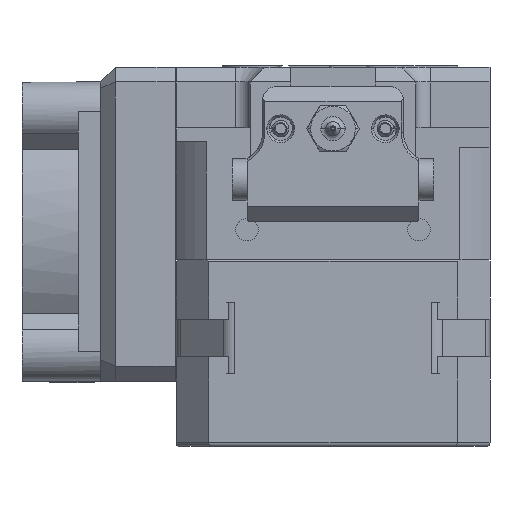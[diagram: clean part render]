
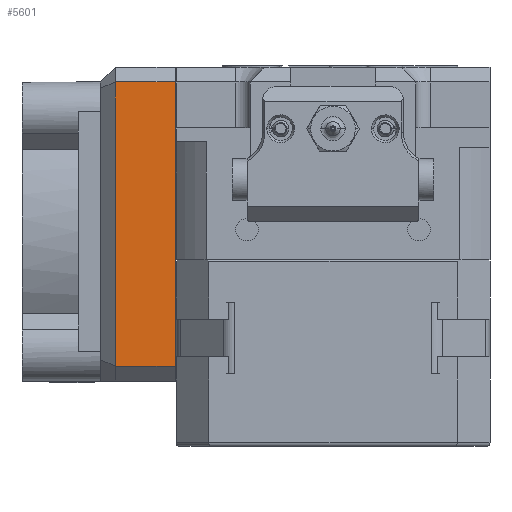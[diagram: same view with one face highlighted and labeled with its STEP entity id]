
A CAD part, front view. The second image highlights one B-rep face of the part: STEP entity #5601.
In plain terms, the highlighted planar face has unit normal (0, -1, 0).
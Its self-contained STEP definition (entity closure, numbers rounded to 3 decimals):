
#2556 = AXIS2_PLACEMENT_3D ( 'NONE', #5505, #10388, #8022 ) ;
#3613 = VECTOR ( 'NONE', #28779, 1000. ) ;
#4657 = LINE ( 'NONE', #23892, #30677 ) ;
#5505 = CARTESIAN_POINT ( 'NONE',  ( -31.1, -21., 50.75 ) ) ;
#5601 = ADVANCED_FACE ( 'NONE', ( #25199 ), #30068, .F. ) ;
#5940 = EDGE_CURVE ( 'NONE', #6543, #11824, #4657, .T. ) ;
#6543 = VERTEX_POINT ( 'NONE', #26120 ) ;
#7234 = CARTESIAN_POINT ( 'NONE',  ( -31.1, -21., 10.75 ) ) ;
#8022 = DIRECTION ( 'NONE',  ( 1., 0., 0. ) ) ;
#8726 = VECTOR ( 'NONE', #9279, 1000. ) ;
#9279 = DIRECTION ( 'NONE',  ( 1., 0., 0. ) ) ;
#10388 = DIRECTION ( 'NONE',  ( 0., 1., 0. ) ) ;
#11824 = VERTEX_POINT ( 'NONE', #22499 ) ;
#12008 = ORIENTED_EDGE ( 'NONE', *, *, #24207, .T. ) ;
#12329 = CARTESIAN_POINT ( 'NONE',  ( -21.1, -21., 10.75 ) ) ;
#13859 = LINE ( 'NONE', #7234, #8726 ) ;
#13977 = VERTEX_POINT ( 'NONE', #12329 ) ;
#15137 = EDGE_LOOP ( 'NONE', ( #24223, #12008, #25397, #18889 ) ) ;
#16654 = VECTOR ( 'NONE', #19249, 1000. ) ;
#18534 = DIRECTION ( 'NONE',  ( -1., 0., 0. ) ) ;
#18872 = CARTESIAN_POINT ( 'NONE',  ( -21.1, -21., 50.75 ) ) ;
#18889 = ORIENTED_EDGE ( 'NONE', *, *, #24824, .T. ) ;
#18972 = CARTESIAN_POINT ( 'NONE',  ( -29.1, -21., 10.75 ) ) ;
#19134 = VERTEX_POINT ( 'NONE', #18972 ) ;
#19249 = DIRECTION ( 'NONE',  ( 0., 0., -1. ) ) ;
#19334 = LINE ( 'NONE', #18872, #3613 ) ;
#21609 = LINE ( 'NONE', #29014, #16654 ) ;
#22499 = CARTESIAN_POINT ( 'NONE',  ( -29.1, -21., 48.75 ) ) ;
#23892 = CARTESIAN_POINT ( 'NONE',  ( -31.1, -21., 48.75 ) ) ;
#24207 = EDGE_CURVE ( 'NONE', #11824, #19134, #21609, .T. ) ;
#24223 = ORIENTED_EDGE ( 'NONE', *, *, #5940, .T. ) ;
#24824 = EDGE_CURVE ( 'NONE', #13977, #6543, #19334, .T. ) ;
#25199 = FACE_OUTER_BOUND ( 'NONE', #15137, .T. ) ;
#25397 = ORIENTED_EDGE ( 'NONE', *, *, #27174, .T. ) ;
#26120 = CARTESIAN_POINT ( 'NONE',  ( -21.1, -21., 48.75 ) ) ;
#27174 = EDGE_CURVE ( 'NONE', #19134, #13977, #13859, .T. ) ;
#28779 = DIRECTION ( 'NONE',  ( 0., 0., 1. ) ) ;
#29014 = CARTESIAN_POINT ( 'NONE',  ( -29.1, -21., 50.75 ) ) ;
#30068 = PLANE ( 'NONE',  #2556 ) ;
#30677 = VECTOR ( 'NONE', #18534, 1000. ) ;
